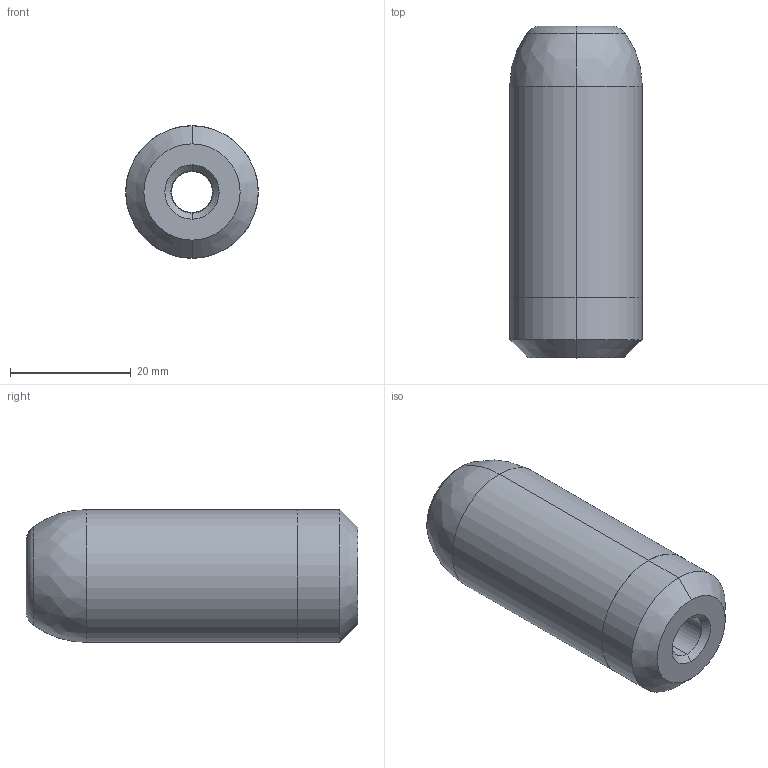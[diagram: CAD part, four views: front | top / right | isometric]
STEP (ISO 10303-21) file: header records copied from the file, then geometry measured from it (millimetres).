
FILE_DESCRIPTION(('CATIA V5 STEP Exchange'),'2;1');
FILE_NAME('C:\Users\Utente\Desktop\IO LAVORO\3D X SITO CF\X SITO\700\700-22-55.stp','2020-11-29T12:13:55+00:00',('none'),('none'),'CATIA Version 5 Release 20 GA (IN-10)','CATIA V5 STEP AP203','none');
FILE_SCHEMA(('CONFIG_CONTROL_DESIGN'));
Length unit declared in the file: millimetre
Products named in the file (1): 700-22-55
Bounding box: 22 x 55 x 22 mm (x, y, z)
Volume: 17751.6 mm3; surface area: 5278.4 mm2
Topology: 1 solids, 1 shells, 22 faces, 44 edges, 26 vertices
Faces by surface type: cylinder 8, cone 6, plane 4, torus 2, revolution 2
Entity records: 687 total; most frequent: CARTESIAN_POINT 192, ORIENTED_EDGE 88, DIRECTION 83, AXIS2_PLACEMENT_3D 48, EDGE_CURVE 44, CIRCLE 27, EDGE_LOOP 26, VERTEX_POINT 26
